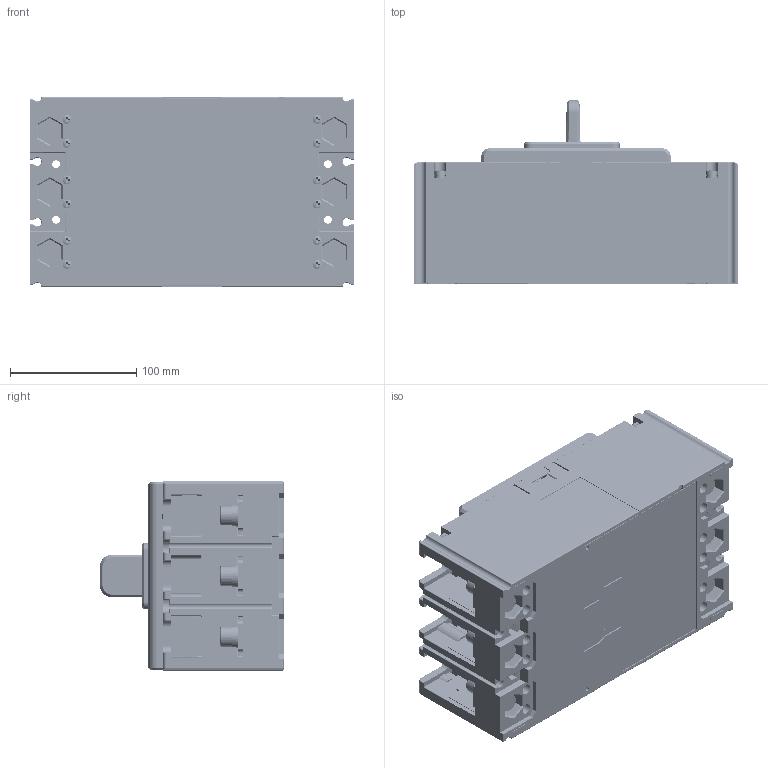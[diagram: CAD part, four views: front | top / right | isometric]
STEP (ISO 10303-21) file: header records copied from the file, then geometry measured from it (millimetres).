
FILE_DESCRIPTION((''),'2;1');
FILE_NAME('2256020300_ASM','2017-12-25T',('yan.shen'),(''),'PRO/ENGINEER BY PARAMETRIC TECHNOLOGY CORPORATION, 2015440','PRO/ENGINEER BY PARAMETRIC TECHNOLOGY CORPORATION, 2015440','');
FILE_SCHEMA(('CONFIG_CONTROL_DESIGN'));
Products named in the file (42): JZ-5DLX_024_271; GB_T809-M5X16; 5024027100_ASM; 8420028400; 5551070700_ASM; 5551071200_ASM; 85510337P01; 5551070800_ASM; 8595008700; 5551071000_ASM; 7010100505J_GB_T823_M4X10; 7090300401K_GB_T93_4; GB_T97_4-4; 5850007500_ASM; 6760010000_ASM; 8742103900; 8742103700; 8253057400; 8865077500_AF0; 8865077600_AF0; 5253021200_ASM; GZ_5DLX_315_428; GB_T809-M3X8; 5315042800_ASM; 8282201200_AF0; 8253201300; 5315043800_ASM; GB_T823-M5X35; 7090300501K_GB_T93_5; GB_T97_4_5; 5850007400_ASM; 8315058100; GB_T70_1-M10X25; GB_T9074_26-10; GB_T97_4_10; 5850002600_ASM; 7010100305R01_GB_T823_M3X10; 7090300201_GB_T93_3; GB_T97_4_3; 5850007700_ASM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
Assembly tree (85 placements, depth 5):
  2256020300_ASM
    6760010000_ASM
      5024027100_ASM
        JZ-5DLX_024_271
        GB_T809-M5X16  x8
      5551071200_ASM
        5551070700_ASM  x3
          8420028400
      5551071000_ASM  x3
        5551070800_ASM
          85510337P01
        8595008700
      5850007500_ASM  x12
        7010100505J_GB_T823_M4X10
        7090300401K_GB_T93_4
        GB_T97_4-4
    8742103900
    8742103700  x3
    5253021200_ASM
      8253057400
      8865077500_AF0
      8865077600_AF0
    5315043800_ASM
      5315042800_ASM
        GZ_5DLX_315_428
        GB_T809-M3X8  x4
      8282201200_AF0
      8253201300
    5850007400_ASM  x8
      GB_T823-M5X35
      7090300501K_GB_T93_5
      GB_T97_4_5
    8315058100
    5850002600_ASM  x6
      GB_T70_1-M10X25
      GB_T9074_26-10
      GB_T97_4_10
    5850007700_ASM  x4
      7010100305R01_GB_T823_M3X10
      7090300201_GB_T93_3
      GB_T97_4_3
    8742105000  x3
Bounding box: 257 x 145.9 x 150 mm (x, y, z)
Volume: 1411751.5 mm3; surface area: 656727.4 mm2
Topology: 126 solids, 189 shells, 5985 faces, 15122 edges, 9631 vertices
Faces by surface type: plane 3381, cylinder 1799, cone 226, extrusion 188, torus 177, sphere 118, bspline 96
Entity records: 148657 total; most frequent: CARTESIAN_POINT 40997, ORIENTED_EDGE 22520, DIRECTION 21608, EDGE_CURVE 11290, VECTOR 8102, LINE 7914, VERTEX_POINT 7242, AXIS2_PLACEMENT_3D 6753
